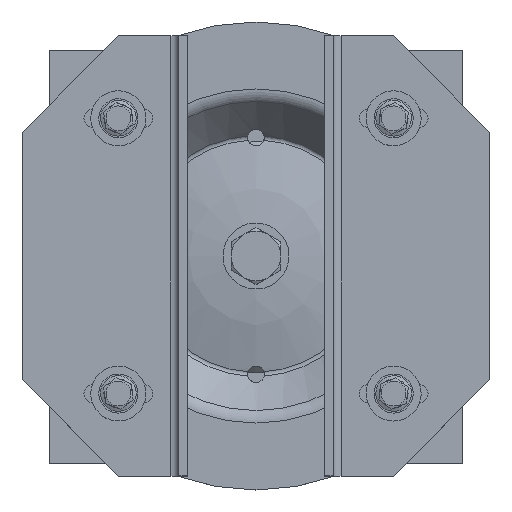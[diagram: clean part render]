
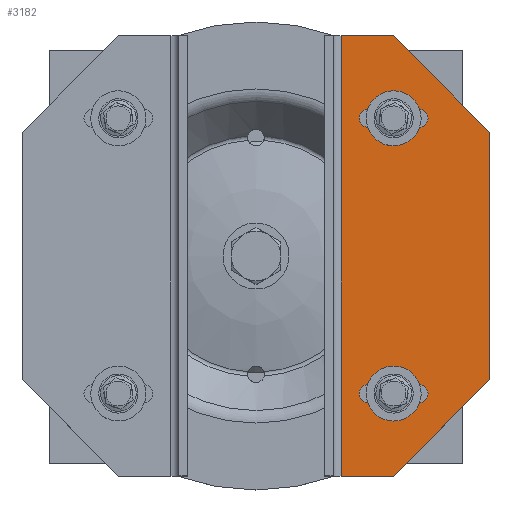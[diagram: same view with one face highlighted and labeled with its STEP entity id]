
A CAD part, top view. The second image highlights one B-rep face of the part: STEP entity #3182.
In plain terms, the highlighted planar face has unit normal (0, 0, 1).
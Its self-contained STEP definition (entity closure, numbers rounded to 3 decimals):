
#226=FACE_BOUND('',#689,.T.);
#227=FACE_BOUND('',#690,.T.);
#297=PLANE('',#3880);
#484=FACE_OUTER_BOUND('',#688,.T.);
#688=EDGE_LOOP('',(#2446,#2447,#2448,#2449,#2450,#2451));
#689=EDGE_LOOP('',(#2452,#2453,#2454,#2455));
#690=EDGE_LOOP('',(#2456,#2457,#2458,#2459));
#901=LINE('',#5783,#1091);
#905=LINE('',#5794,#1095);
#909=LINE('',#5807,#1099);
#913=LINE('',#5818,#1103);
#917=LINE('',#5827,#1107);
#921=LINE('',#5834,#1111);
#927=LINE('',#5847,#1117);
#929=LINE('',#5851,#1119);
#941=LINE('',#5890,#1131);
#948=LINE('',#5909,#1138);
#1091=VECTOR('',#4345,10.);
#1095=VECTOR('',#4357,10.);
#1099=VECTOR('',#4369,10.);
#1103=VECTOR('',#4381,10.);
#1107=VECTOR('',#4387,10.);
#1111=VECTOR('',#4393,10.);
#1117=VECTOR('',#4403,10.);
#1119=VECTOR('',#4407,10.);
#1131=VECTOR('',#4449,10.);
#1138=VECTOR('',#4468,10.);
#1302=CIRCLE('',#3840,3.25);
#1304=CIRCLE('',#3844,3.25);
#1306=CIRCLE('',#3848,3.25);
#1308=CIRCLE('',#3852,3.25);
#1511=VERTEX_POINT('',#5773);
#1512=VERTEX_POINT('',#5774);
#1515=VERTEX_POINT('',#5782);
#1517=VERTEX_POINT('',#5788);
#1519=VERTEX_POINT('',#5797);
#1520=VERTEX_POINT('',#5798);
#1523=VERTEX_POINT('',#5806);
#1525=VERTEX_POINT('',#5812);
#1529=VERTEX_POINT('',#5824);
#1530=VERTEX_POINT('',#5826);
#1532=VERTEX_POINT('',#5832);
#1536=VERTEX_POINT('',#5844);
#1537=VERTEX_POINT('',#5846);
#1538=VERTEX_POINT('',#5850);
#1823=EDGE_CURVE('',#1511,#1512,#1302,.T.);
#1827=EDGE_CURVE('',#1515,#1511,#901,.T.);
#1830=EDGE_CURVE('',#1517,#1515,#1304,.T.);
#1833=EDGE_CURVE('',#1512,#1517,#905,.T.);
#1835=EDGE_CURVE('',#1519,#1520,#1306,.T.);
#1839=EDGE_CURVE('',#1523,#1519,#909,.T.);
#1842=EDGE_CURVE('',#1525,#1523,#1308,.T.);
#1845=EDGE_CURVE('',#1520,#1525,#913,.T.);
#1849=EDGE_CURVE('',#1529,#1530,#917,.T.);
#1853=EDGE_CURVE('',#1532,#1529,#921,.T.);
#1859=EDGE_CURVE('',#1536,#1537,#927,.T.);
#1861=EDGE_CURVE('',#1538,#1537,#929,.T.);
#1881=EDGE_CURVE('',#1532,#1538,#941,.T.);
#1891=EDGE_CURVE('',#1536,#1530,#948,.T.);
#2446=ORIENTED_EDGE('',*,*,#1849,.F.);
#2447=ORIENTED_EDGE('',*,*,#1853,.F.);
#2448=ORIENTED_EDGE('',*,*,#1881,.T.);
#2449=ORIENTED_EDGE('',*,*,#1861,.T.);
#2450=ORIENTED_EDGE('',*,*,#1859,.F.);
#2451=ORIENTED_EDGE('',*,*,#1891,.T.);
#2452=ORIENTED_EDGE('',*,*,#1823,.T.);
#2453=ORIENTED_EDGE('',*,*,#1833,.T.);
#2454=ORIENTED_EDGE('',*,*,#1830,.T.);
#2455=ORIENTED_EDGE('',*,*,#1827,.T.);
#2456=ORIENTED_EDGE('',*,*,#1835,.T.);
#2457=ORIENTED_EDGE('',*,*,#1845,.T.);
#2458=ORIENTED_EDGE('',*,*,#1842,.T.);
#2459=ORIENTED_EDGE('',*,*,#1839,.T.);
#3182=ADVANCED_FACE('',(#484,#226,#227),#297,.T.);
#3840=AXIS2_PLACEMENT_3D('',#5775,#4337,#4338);
#3844=AXIS2_PLACEMENT_3D('',#5789,#4350,#4351);
#3848=AXIS2_PLACEMENT_3D('',#5799,#4361,#4362);
#3852=AXIS2_PLACEMENT_3D('',#5813,#4374,#4375);
#3880=AXIS2_PLACEMENT_3D('',#5908,#4466,#4467);
#4337=DIRECTION('center_axis',(0.,0.,
-1.));
#4338=DIRECTION('ref_axis',(0.,-1.,0.));
#4345=DIRECTION('',(1.,0.,0.));
#4350=DIRECTION('center_axis',(0.,0.,
-1.));
#4351=DIRECTION('ref_axis',(0.,1.,0.));
#4357=DIRECTION('',(-1.,0.,0.));
#4361=DIRECTION('center_axis',(0.,0.,
-1.));
#4362=DIRECTION('ref_axis',(0.,-1.,0.));
#4369=DIRECTION('',(1.,0.,0.));
#4374=DIRECTION('center_axis',(0.,0.,
-1.));
#4375=DIRECTION('ref_axis',(0.,1.,0.));
#4381=DIRECTION('',(-1.,0.,0.));
#4387=DIRECTION('',(0.707,-0.707,0.));
#4393=DIRECTION('',(1.,0.,0.));
#4403=DIRECTION('',(-0.707,-0.707,0.));
#4407=DIRECTION('',(1.,0.,0.));
#4449=DIRECTION('',(0.,-1.,0.));
#4466=DIRECTION('center_axis',(0.,0.,
1.));
#4467=DIRECTION('ref_axis',(1.,0.,0.));
#4468=DIRECTION('',(0.,1.,0.));
#5773=CARTESIAN_POINT('',(34.25,-46.75,3.));
#5774=CARTESIAN_POINT('',(34.25,-53.25,3.));
#5775=CARTESIAN_POINT('Origin',(34.25,-50.,3.));
#5782=CARTESIAN_POINT('',(15.75,-46.75,3.));
#5783=CARTESIAN_POINT('',(9.179,-46.75,3.));
#5788=CARTESIAN_POINT('',(15.75,-53.25,3.));
#5789=CARTESIAN_POINT('Origin',(15.75,-50.,3.));
#5794=CARTESIAN_POINT('',(18.429,-53.25,3.));
#5797=CARTESIAN_POINT('',(34.25,53.25,3.));
#5798=CARTESIAN_POINT('',(34.25,46.75,3.));
#5799=CARTESIAN_POINT('Origin',(34.25,50.,3.));
#5806=CARTESIAN_POINT('',(15.75,53.25,3.));
#5807=CARTESIAN_POINT('',(9.179,53.25,3.));
#5812=CARTESIAN_POINT('',(15.75,46.75,3.));
#5813=CARTESIAN_POINT('Origin',(15.75,50.,3.));
#5818=CARTESIAN_POINT('',(18.429,46.75,3.));
#5824=CARTESIAN_POINT('',(25.,80.,3.));
#5826=CARTESIAN_POINT('',(60.,45.,3.));
#5827=CARTESIAN_POINT('',(48.152,56.848,3.));
#5832=CARTESIAN_POINT('',(6.,80.,3.));
#5834=CARTESIAN_POINT('',(-54.786,80.,3.));
#5844=CARTESIAN_POINT('',(60.,-45.,3.));
#5846=CARTESIAN_POINT('',(25.,-80.,3.));
#5847=CARTESIAN_POINT('',(48.152,-56.848,3.));
#5850=CARTESIAN_POINT('',(6.,-80.,3.));
#5851=CARTESIAN_POINT('',(-54.786,-80.,3.));
#5890=CARTESIAN_POINT('',(6.,0.,3.));
#5908=CARTESIAN_POINT('Origin',(2.607,0.,3.));
#5909=CARTESIAN_POINT('',(60.,-80.,3.));
